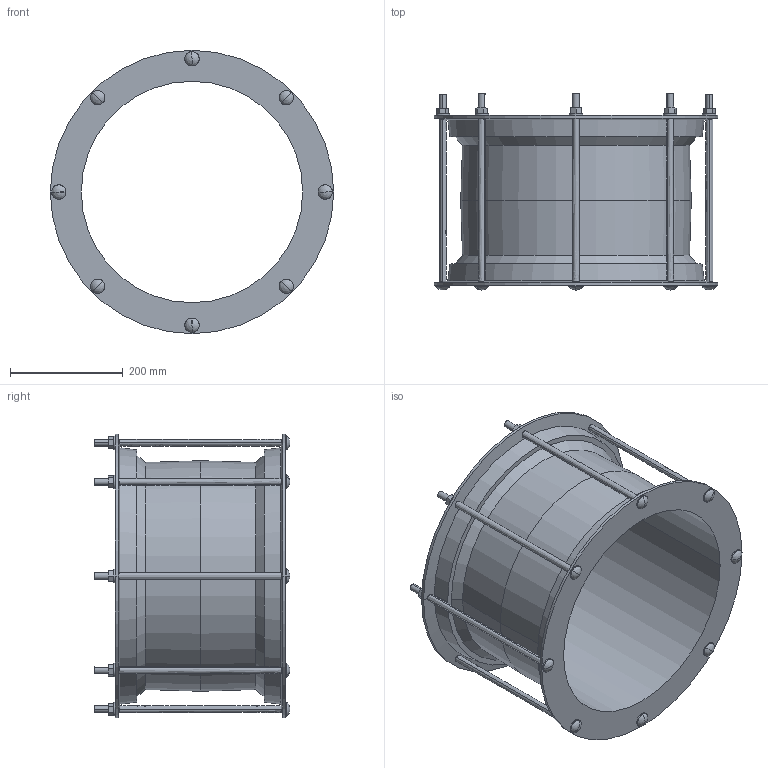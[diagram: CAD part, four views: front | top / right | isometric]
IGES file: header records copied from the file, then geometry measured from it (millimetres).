
Start section:  PTC IGES file: 374_391.igs
Global section: file name: 374_391.igs; native system: Creo Parametric by PTC Inc.; preprocessor: 2016130; author: mfairey; organization: Unknown; date: 20181218.110457; units: millimetre
Bounding box: 503.5 x 348 x 503.5 mm (x, y, z)
Surface area: 1132921.4 mm2 (no closed solid volume)
Topology: 0 solids, 0 shells, 178 faces, 848 edges, 832 vertices
Faces by surface type: revolution 102, bspline 76
